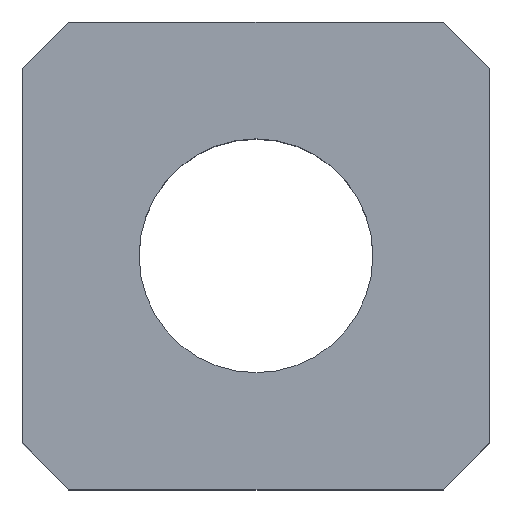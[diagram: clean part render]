
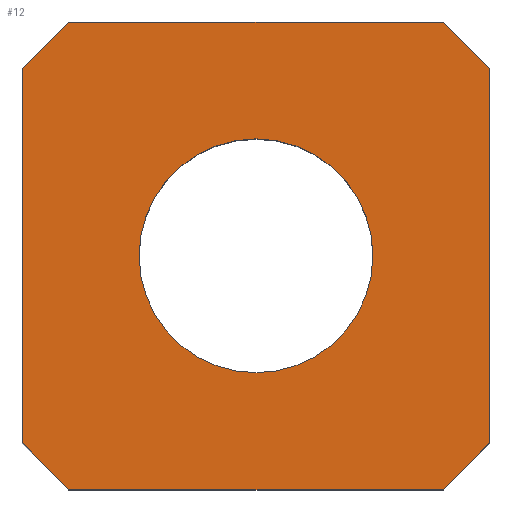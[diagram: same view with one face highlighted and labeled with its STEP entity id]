
A CAD part, top view. The second image highlights one B-rep face of the part: STEP entity #12.
In plain terms, the highlighted planar face has unit normal (0, 0, 1).
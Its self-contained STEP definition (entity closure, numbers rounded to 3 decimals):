
#8 = CARTESIAN_POINT ( 'NONE',  ( 3.325, -3.325, 4.8 ) ) ;
#10 = VERTEX_POINT ( 'NONE', #410 ) ;
#11 = CARTESIAN_POINT ( 'NONE',  ( -7.85, -6.5, 4.8 ) ) ;
#12 = ADVANCED_FACE ( 'NONE', ( #434, #385 ), #100, .T. ) ;
#23 = DIRECTION ( 'NONE',  ( 1., 0., 0. ) ) ;
#30 = VERTEX_POINT ( 'NONE', #11 ) ;
#31 = ORIENTED_EDGE ( 'NONE', *, *, #125, .T. ) ;
#32 = CARTESIAN_POINT ( 'NONE',  ( 1.825, 1.825, 4.8 ) ) ;
#39 = DIRECTION ( 'NONE',  ( 1., 0., 0. ) ) ;
#43 = ORIENTED_EDGE ( 'NONE', *, *, #178, .T. ) ;
#44 = VECTOR ( 'NONE', #39, 1000. ) ;
#50 = VERTEX_POINT ( 'NONE', #259 ) ;
#53 = VERTEX_POINT ( 'NONE', #222 ) ;
#59 = VECTOR ( 'NONE', #172, 1000. ) ;
#60 = VECTOR ( 'NONE', #270, 1000. ) ;
#63 = ORIENTED_EDGE ( 'NONE', *, *, #327, .T. ) ;
#73 = LINE ( 'NONE', #8, #206 ) ;
#86 = EDGE_CURVE ( 'NONE', #30, #50, #112, .T. ) ;
#87 = CARTESIAN_POINT ( 'NONE',  ( -1.35, -1.5, 4.8 ) ) ;
#89 = CARTESIAN_POINT ( 'NONE',  ( 1.15, 2.5, 4.8 ) ) ;
#100 = PLANE ( 'NONE',  #150 ) ;
#101 = LINE ( 'NONE', #127, #391 ) ;
#105 = EDGE_CURVE ( 'NONE', #264, #53, #284, .T. ) ;
#108 = VECTOR ( 'NONE', #404, 1000. ) ;
#112 = LINE ( 'NONE', #120, #44 ) ;
#116 = LINE ( 'NONE', #32, #179 ) ;
#120 = CARTESIAN_POINT ( 'NONE',  ( -8.85, -6.5, 4.8 ) ) ;
#123 = CARTESIAN_POINT ( 'NONE',  ( -7.85, 3.5, 4.8 ) ) ;
#125 = EDGE_CURVE ( 'NONE', #53, #30, #101, .T. ) ;
#127 = CARTESIAN_POINT ( 'NONE',  ( -7.175, -7.175, 4.8 ) ) ;
#132 = DIRECTION ( 'NONE',  ( 1., 0., 0. ) ) ;
#134 = VERTEX_POINT ( 'NONE', #317 ) ;
#150 = AXIS2_PLACEMENT_3D ( 'NONE', #293, #415, #132 ) ;
#152 = LINE ( 'NONE', #239, #60 ) ;
#153 = CARTESIAN_POINT ( 'NONE',  ( -3.85, -1.5, 4.8 ) ) ;
#154 = VERTEX_POINT ( 'NONE', #87 ) ;
#160 = VERTEX_POINT ( 'NONE', #123 ) ;
#161 = ORIENTED_EDGE ( 'NONE', *, *, #105, .T. ) ;
#172 = DIRECTION ( 'NONE',  ( 0., 1., 0. ) ) ;
#178 = EDGE_CURVE ( 'NONE', #296, #10, #116, .T. ) ;
#179 = VECTOR ( 'NONE', #318, 1000. ) ;
#192 = ORIENTED_EDGE ( 'NONE', *, *, #339, .F. ) ;
#196 = CARTESIAN_POINT ( 'NONE',  ( -3.85, -1.5, 4.8 ) ) ;
#201 = CIRCLE ( 'NONE', #271, 2.5 ) ;
#206 = VECTOR ( 'NONE', #362, 1000. ) ;
#215 = CARTESIAN_POINT ( 'NONE',  ( -5.675, 5.675, 4.8 ) ) ;
#221 = CARTESIAN_POINT ( 'NONE',  ( -8.85, 2.5, 4.8 ) ) ;
#222 = CARTESIAN_POINT ( 'NONE',  ( -8.85, -5.5, 4.8 ) ) ;
#223 = DIRECTION ( 'NONE',  ( 0.707, -0.707, 0. ) ) ;
#238 = ORIENTED_EDGE ( 'NONE', *, *, #256, .T. ) ;
#239 = CARTESIAN_POINT ( 'NONE',  ( -8.85, 3.5, 4.8 ) ) ;
#240 = DIRECTION ( 'NONE',  ( 0., 0., 1. ) ) ;
#256 = EDGE_CURVE ( 'NONE', #160, #264, #387, .T. ) ;
#257 = CARTESIAN_POINT ( 'NONE',  ( -8.85, 3.5, 4.8 ) ) ;
#258 = EDGE_LOOP ( 'NONE', ( #263, #43, #386, #238, #161, #31, #429, #63 ) ) ;
#259 = CARTESIAN_POINT ( 'NONE',  ( 0.15, -6.5, 4.8 ) ) ;
#263 = ORIENTED_EDGE ( 'NONE', *, *, #382, .T. ) ;
#264 = VERTEX_POINT ( 'NONE', #221 ) ;
#265 = DIRECTION ( 'NONE',  ( 1., 0., 0. ) ) ;
#270 = DIRECTION ( 'NONE',  ( -1., 0., 0. ) ) ;
#271 = AXIS2_PLACEMENT_3D ( 'NONE', #153, #330, #23 ) ;
#284 = LINE ( 'NONE', #257, #421 ) ;
#293 = CARTESIAN_POINT ( 'NONE',  ( 0., 0., 4.8 ) ) ;
#296 = VERTEX_POINT ( 'NONE', #89 ) ;
#302 = EDGE_LOOP ( 'NONE', ( #192, #349 ) ) ;
#317 = CARTESIAN_POINT ( 'NONE',  ( -6.35, -1.5, 4.8 ) ) ;
#318 = DIRECTION ( 'NONE',  ( -0.707, 0.707, 0. ) ) ;
#325 = VERTEX_POINT ( 'NONE', #401 ) ;
#326 = CIRCLE ( 'NONE', #344, 2.5 ) ;
#327 = EDGE_CURVE ( 'NONE', #50, #325, #73, .T. ) ;
#330 = DIRECTION ( 'NONE',  ( 0., 0., 1. ) ) ;
#339 = EDGE_CURVE ( 'NONE', #154, #134, #201, .T. ) ;
#344 = AXIS2_PLACEMENT_3D ( 'NONE', #196, #240, #265 ) ;
#349 = ORIENTED_EDGE ( 'NONE', *, *, #373, .F. ) ;
#362 = DIRECTION ( 'NONE',  ( 0.707, 0.707, 0. ) ) ;
#373 = EDGE_CURVE ( 'NONE', #134, #154, #326, .T. ) ;
#382 = EDGE_CURVE ( 'NONE', #325, #296, #406, .T. ) ;
#385 = FACE_OUTER_BOUND ( 'NONE', #258, .T. ) ;
#386 = ORIENTED_EDGE ( 'NONE', *, *, #390, .T. ) ;
#387 = LINE ( 'NONE', #215, #108 ) ;
#390 = EDGE_CURVE ( 'NONE', #10, #160, #152, .T. ) ;
#391 = VECTOR ( 'NONE', #223, 1000. ) ;
#401 = CARTESIAN_POINT ( 'NONE',  ( 1.15, -5.5, 4.8 ) ) ;
#402 = DIRECTION ( 'NONE',  ( 0., -1., 0. ) ) ;
#404 = DIRECTION ( 'NONE',  ( -0.707, -0.707, 0. ) ) ;
#406 = LINE ( 'NONE', #412, #59 ) ;
#410 = CARTESIAN_POINT ( 'NONE',  ( 0.15, 3.5, 4.8 ) ) ;
#412 = CARTESIAN_POINT ( 'NONE',  ( 1.15, 3.5, 4.8 ) ) ;
#415 = DIRECTION ( 'NONE',  ( 0., 0., 1. ) ) ;
#421 = VECTOR ( 'NONE', #402, 1000. ) ;
#429 = ORIENTED_EDGE ( 'NONE', *, *, #86, .T. ) ;
#434 = FACE_BOUND ( 'NONE', #302, .T. ) ;
